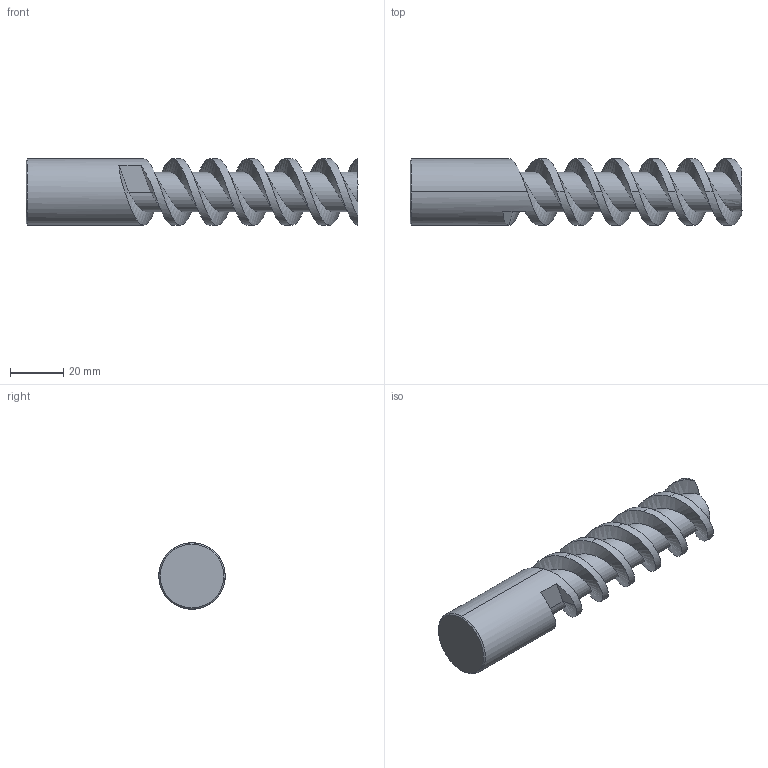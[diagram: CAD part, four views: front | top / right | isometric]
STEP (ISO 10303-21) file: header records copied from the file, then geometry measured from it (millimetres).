
FILE_DESCRIPTION (( 'STEP AP214' ), '1' );
FILE_NAME ('E2122_25_125.STEP', '2013-04-10T07:07:59', ( '' ), ( '' ), 'SwSTEP 2.0', 'SolidWorks 2013', '' );
FILE_SCHEMA (( 'AUTOMOTIVE_DESIGN' ));
Length unit declared in the file: millimetre
Products named in the file (1): E2122_25_125
Bounding box: 125 x 25 x 25 mm (x, y, z)
Volume: 42645.9 mm3; surface area: 12036.4 mm2
Topology: 1 solids, 1 shells, 28 faces, 72 edges, 46 vertices
Faces by surface type: cylinder 12, plane 8, bspline 6, cone 2
Entity records: 7748 total; most frequent: CARTESIAN_POINT 6857, ORIENTED_EDGE 144, DIRECTION 84, EDGE_CURVE 72, VERTEX_POINT 46, UNCERTAINTY_MEASURE_WITH_UNIT 31, STYLED_ITEM 30, PRESENTATION_LAYER_ASSIGNMENT 30
